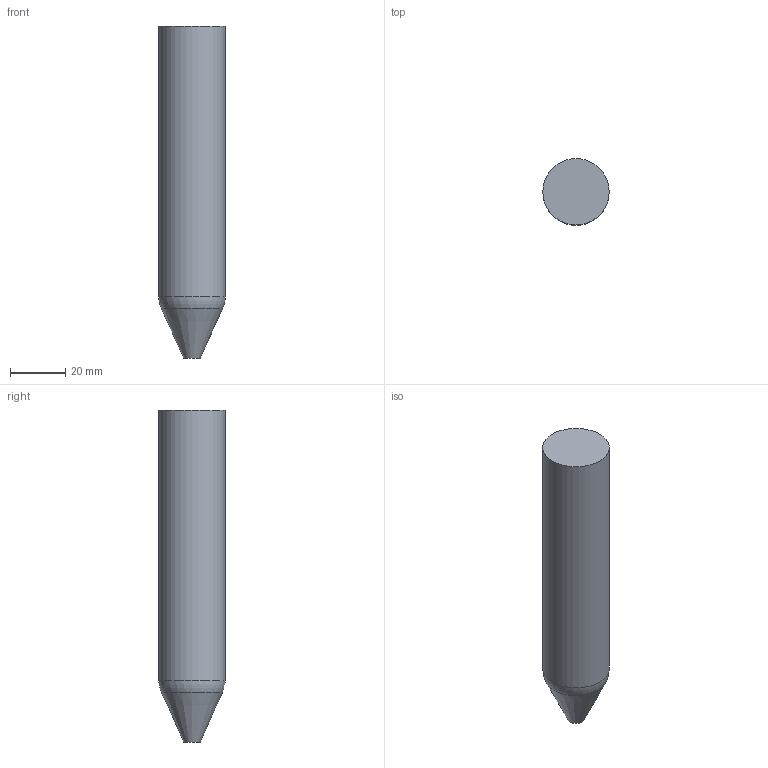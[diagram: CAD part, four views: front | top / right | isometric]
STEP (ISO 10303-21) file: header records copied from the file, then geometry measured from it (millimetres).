
FILE_DESCRIPTION(/* description */ ('STEP AP214'),/* implementation_level */ '2;1');
FILE_NAME(/* name */ '61b9c3592d55e65205077bc6',/* time_stamp */ '2021-12-15T10:28:42+00:00',/* author */ (''),/* organization */ (''),/* preprocessor_version */ 'ST-DEVELOPER v18.1',/* originating_system */ ' ',/* authorisation */ ' ');
FILE_SCHEMA (('AUTOMOTIVE_DESIGN {1 0 10303 214 3 1 1}'));
Length unit declared in the file: metre
Products named in the file (1): Part 1
Bounding box: 24 x 24 x 120 mm (x, y, z)
Volume: 49173.5 mm3; surface area: 9047.2 mm2
Topology: 1 solids, 1 shells, 5 faces, 8 edges, 5 vertices
Faces by surface type: plane 2, cylinder 1, cone 1, torus 1
Full cylindrical faces by diameter (mm): 24 x1
Entity records: 124 total; most frequent: DIRECTION 20, CARTESIAN_POINT 14, AXIS2_PLACEMENT_3D 10, ORIENTED_EDGE 8, EDGE_LOOP 8, FACE_BOUND 8, ADVANCED_FACE 5, EDGE_CURVE 4
